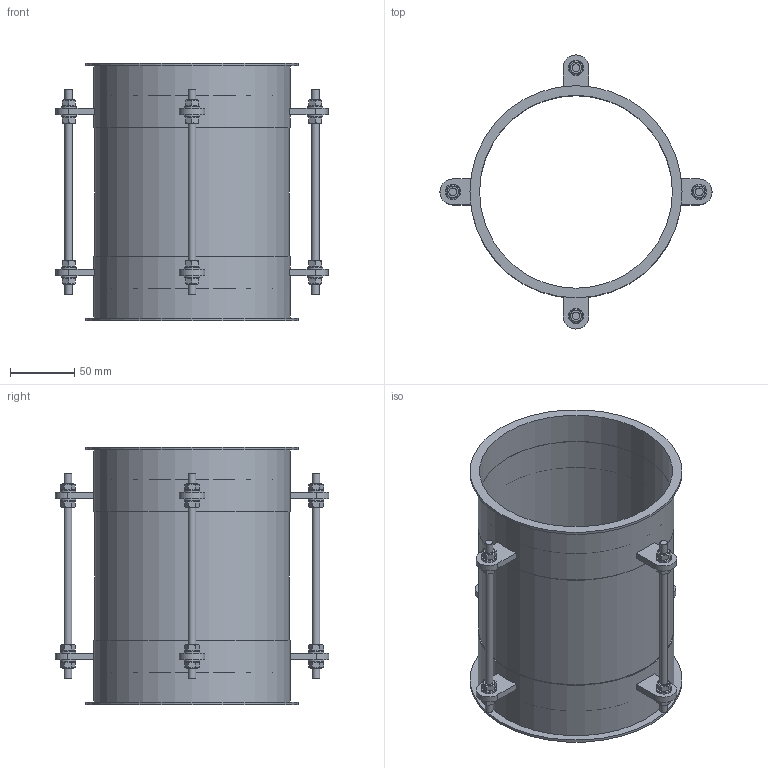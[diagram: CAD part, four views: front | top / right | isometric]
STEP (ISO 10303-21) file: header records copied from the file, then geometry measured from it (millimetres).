
FILE_DESCRIPTION((''),'2;1');
FILE_NAME('U:\Wolfgang\Marcel-3D\fertig\Kapitel 4\1511042.stp','2011-04-21T08:28:51',('TK1'),(''),'Autodesk Inventor 2010','Autodesk Inventor 2010','');
FILE_SCHEMA(('AUTOMOTIVE_DESIGN { 1 0 10303 214 1 1 1 1 }'));
Length unit declared in the file: millimetre
Products named in the file (6): 1511042; 1511042-1; 1511042-2; 1011042-3; ISO 4032 M6; ISO 7089 6 - 140 HV
Assembly tree (39 placements, depth 2):
  1511042
    1511042-1  x2
    1511042-2
    1011042-3  x4
    ISO 4032 M6  x16
    ISO 7089 6 - 140 HV  x16
Bounding box: 211.69 x 213 x 200 mm (x, y, z)
Volume: 165424.6 mm3; surface area: 287791.6 mm2
Topology: 45 solids, 45 shells, 362 faces, 758 edges, 490 vertices
Faces by surface type: plane 218, cylinder 64, cone 64, bspline 16
Full cylindrical faces by diameter (mm): 6 x12, 6.4 x16, 12 x16, 150 x3, 151.5 x3, 153 x2, 165 x2
Entity records: 1989 total; most frequent: DIRECTION 346, CARTESIAN_POINT 332, ORIENTED_EDGE 212, AXIS2_PLACEMENT_3D 148, EDGE_CURVE 106, EDGE_LOOP 100, VERTEX_POINT 80, FACE_OUTER_BOUND 60
